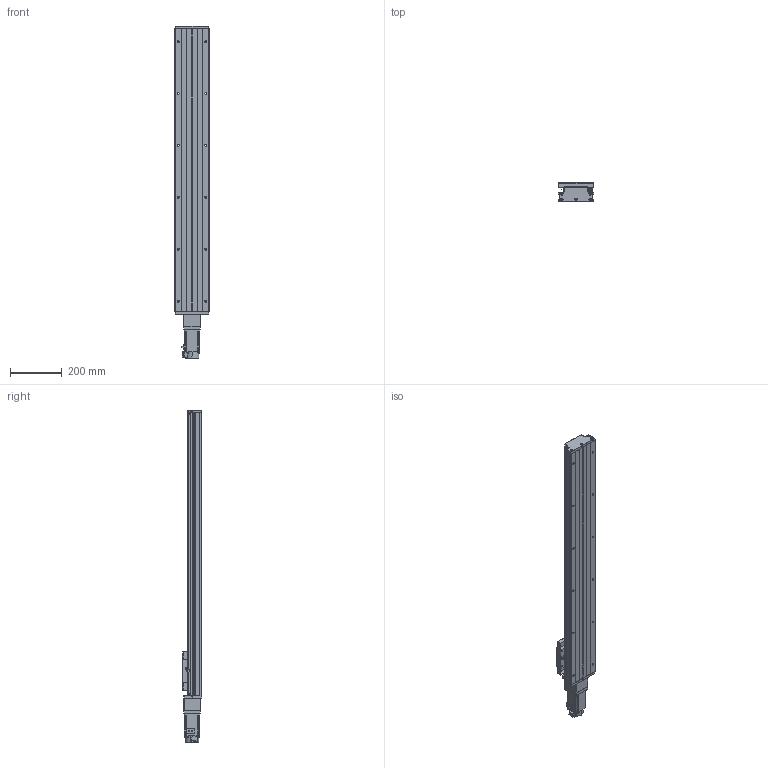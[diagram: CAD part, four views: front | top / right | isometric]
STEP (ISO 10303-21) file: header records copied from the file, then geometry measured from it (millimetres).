
FILE_DESCRIPTION (( 'STEP AP203' ), '1' );
FILE_NAME ('CTH130-900-BC-M40-C4.step', '2023-06-30T02:34:57', ( '微软用户' ), ( '微软中国' ), 'SwSTEP 2.0', 'SolidWorks 2020', '' );
FILE_SCHEMA (( 'CONFIG_CONTROL_DESIGN' ));
Length unit declared in the file: millimetre
Products named in the file (21): GTH14-004; GBT 70.1-M3℅5; CTHA86-027-1; GTH14-005; GBT77-2000 M3×3; GBT 70.3-M3℅8; GB1155-6X6; CTH130-031; HG-KN43J-S100; GBT70.1 M5℅16; GBT 70.2-M3¡Á5_M3¡Á6; CTH130-900-BC-M40-C4; GTH14-001_900; CTHA60-017; す晦芛蹟隊 M3℅5; CTH130-002_GTH14-002; EE_SX911P_R; CTHA86-006-1_M40; GB T308.1-2013-6.35; CTHA60-016; CTHA86-013
Assembly tree (59 placements, depth 2):
  CTH130-900-BC-M40-C4
    GTH14-001_900
    CTH130-002_GTH14-002
    GB T308.1-2013-6.35  x2
    GTH14-004
    GTH14-005
    GB1155-6X6  x2
    GBT70.1 M5℅16  x10
    CTHA60-017  x3
    EE_SX911P_R  x3
    CTHA60-016  x2
    GBT 70.1-M3℅5  x6
    GBT77-2000 M3×3  x6
    CTH130-031
    GBT 70.2-M3¡Á5_M3¡Á6  x8
    す晦芛蹟隊 M3℅5  x6
    CTHA86-006-1_M40
    CTHA86-013
    CTHA86-027-1
    GBT 70.3-M3℅8  x2
    HG-KN43J-S100
Bounding box: 135 x 76 x 1278.7 mm (x, y, z)
Volume: 6166559.7 mm3; surface area: 953500.9 mm2
Topology: 62 solids, 62 shells, 2390 faces, 5705 edges, 3535 vertices
Faces by surface type: plane 1305, cylinder 634, cone 287, torus 120, sphere 24, bspline 20
Entity records: 43988 total; most frequent: CARTESIAN_POINT 9855, DIRECTION 6391, ORIENTED_EDGE 6310, EDGE_CURVE 3155, AXIS2_PLACEMENT_3D 2167, LINE 2057, VECTOR 2057, VERTEX_POINT 1995
